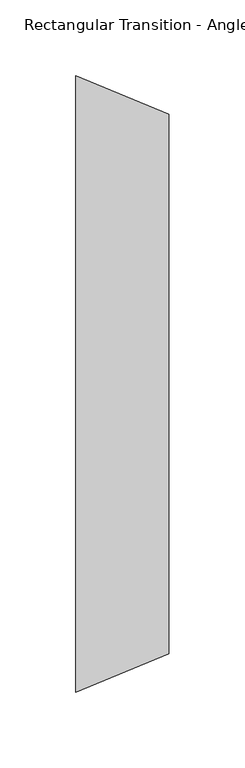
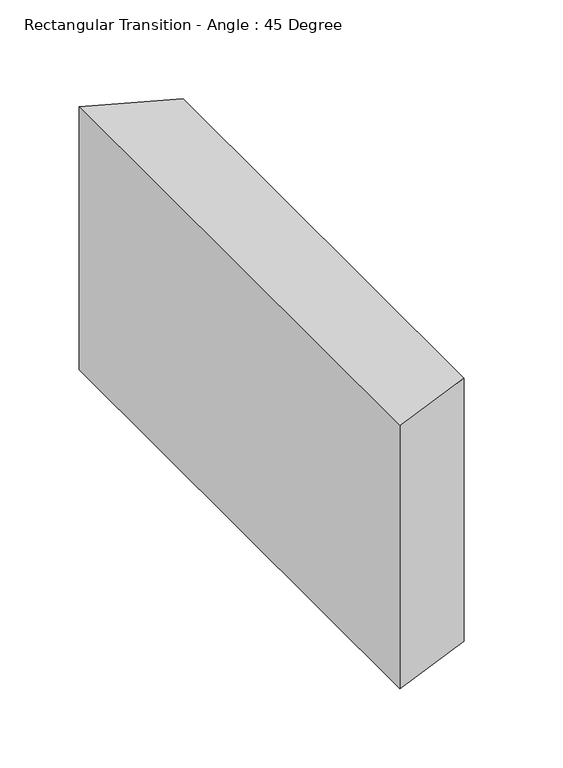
"""IFC4 building model written with IfcOpenShell, lengths in millimetres: duct fitting geometry, Rectangular Transition - Angle : 45 Degree."""

from ifc_helpers import new_model, si_unit, frame, origin, place, context, project, spatial, polyline, outline, extrude, source, transform, mapped, element, save


def rectangular_transition_angle_45_degree_791ae252(model_context):
    return source(origin(), model_context, "Body", "SweptSolid", [
        extrude(outline(polyline([(0.0, -203.2), (0.0, 203.2), (61.3210245, 177.8), (61.3210245, -177.8), (0.0, -203.2)])), frame((0.0, 0.0, -101.6), z_axis=(0.0, 0.0, 1.0), x_axis=(1.0, 0.0, 0.0)), (0.0, 0.0, 1.0), 203.2),
    ])


if __name__ == "__main__":
    model = new_model("IFC4")
    model_context = context("Model", 3, world=origin())
    ifc_project = project(units=[si_unit("LENGTHUNIT", "METRE", prefix="MILLI")], contexts=[model_context])
    site = spatial("IfcSite", under=ifc_project)
    building = spatial("IfcBuilding", under=site)
    placement = place(None, origin())
    rectangular_transition_angle_45_degree_shape = rectangular_transition_angle_45_degree_791ae252(model_context)
    element("IfcDuctFitting", 1, ObjectType="Rectangular Transition - Angle : 45 Degree", at=placement, inside=building, context=model_context, shape_type="MappedRepresentation", body=[
        mapped(rectangular_transition_angle_45_degree_shape, transform((0.0, 0.0, 0.0), x_axis=(1.0, 0.0, 0.0), y_axis=(0.0, 1.0, 0.0), z_axis=(0.0, 0.0, 1.0))),
    ])
    save(model, "model.ifc")
